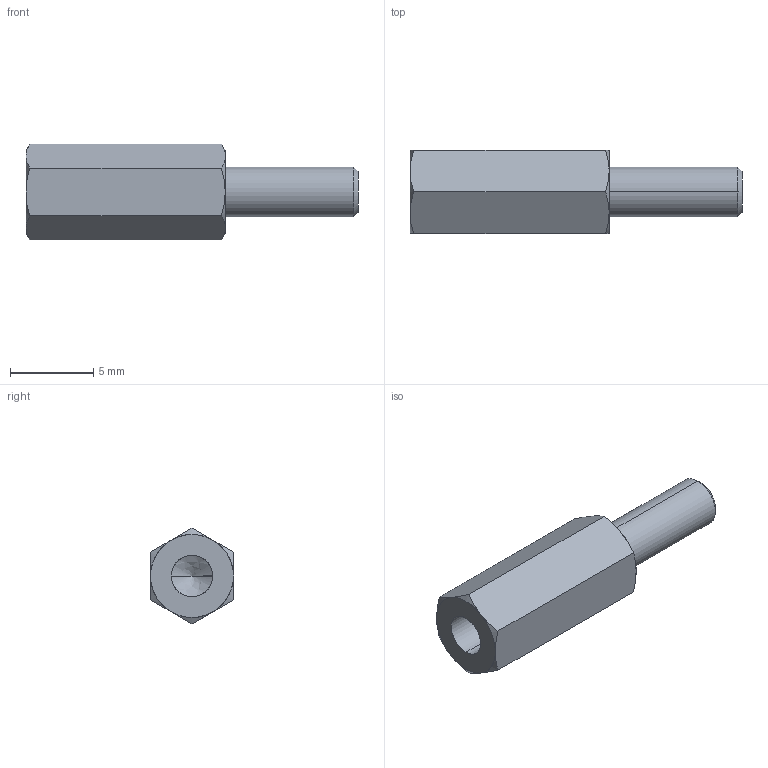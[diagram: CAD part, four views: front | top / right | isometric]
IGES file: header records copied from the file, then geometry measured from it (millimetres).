
Start section: SolidWorks IGES file using analytic representation for surfaces
Global section: file name: C:\Users\render1\Desktop\P0185_IGES\P0185.03-12.igs; native system: SolidWorks 2009; preprocessor: SolidWorks 2009; author: render1; date: 130627.111714; units: millimetre
Bounding box: 20 x 5 x 5.77 mm (x, y, z)
Surface area: 386.6 mm2 (no closed solid volume)
Topology: 0 solids, 0 shells, 29 faces, 324 edges, 322 vertices
Faces by surface type: revolution 20, bspline 9
